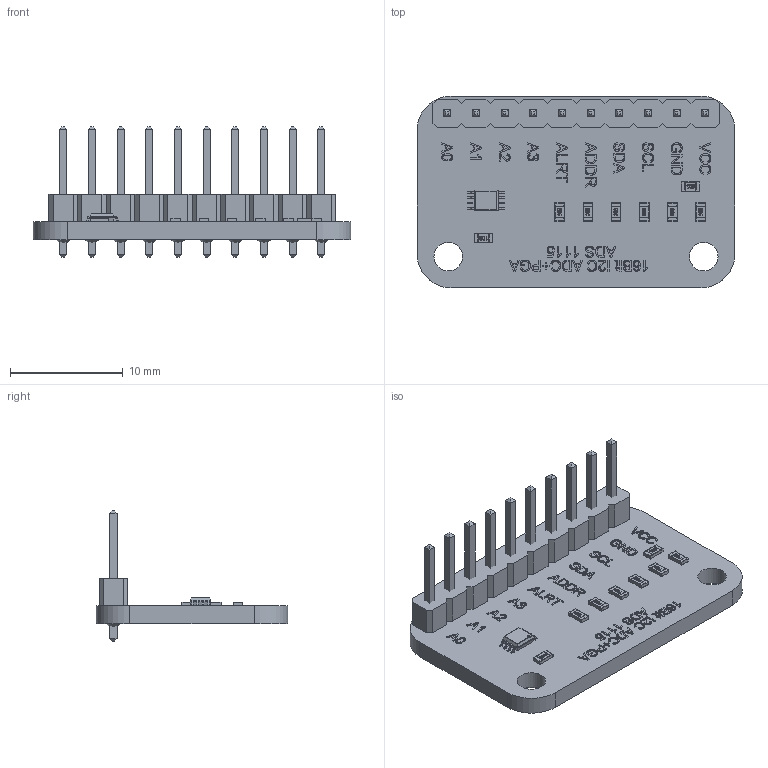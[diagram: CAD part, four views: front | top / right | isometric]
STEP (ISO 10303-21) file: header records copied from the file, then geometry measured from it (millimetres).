
FILE_DESCRIPTION(/* description */ ('Unknown'),/* implementation_level */ '2;1');
FILE_NAME(/* name */ 'ADS1115',/* time_stamp */ '2026-09-02T20:42:07+02:00',/* author */ ('Unknown'),/* organization */ ('Unknown'),/* preprocessor_version */ 'ST-DEVELOPER v20',/* originating_system */ 'Solid Edge',/* authorisation */ 'Unknown');
FILE_SCHEMA (('AUTOMOTIVE_DESIGN {1 0 10303 214 3 1 1}'));
Length unit declared in the file: millimetre
Products named in the file (23): ADS1115; Platine; 2.54mm x 10 Male Header; 2; 2_0; 2_1; 2_2; 2_3; 2_4; 2_5; 2_6; 2_7; 2_8; 2_19; M1608_res_0.3; body006; pin011; label006; ShapeString006; pin012; Lötzinn; LM393 SMD IC SOIC(8)
Assembly tree (38 placements, depth 3):
  ADS1115
    Platine
    2.54mm x 10 Male Header
      2
      2_0
      2_1
      2_2
      2_3
      2_4
      2_5
      2_6
      2_7
      2_8
      2_19
    M1608_res_0.3  x8
      body006
      pin011
      label006
      ShapeString006
      pin012
    Lötzinn  x10
    LM393 SMD IC SOIC(8)
      LM393 SMD IC SOIC(8)
Bounding box: 28.15 x 17 x 11.54 mm (x, y, z)
Volume: 936.6 mm3; surface area: 1810.2 mm2
Topology: 55 solids, 80 shells, 1393 faces, 3642 edges, 2454 vertices
Faces by surface type: plane 1129, cylinder 158, bspline 96, cone 10
Full cylindrical faces by diameter (mm): 0.5 x6, 0.75 x10, 2.54 x2
Entity records: 34951 total; most frequent: CARTESIAN_POINT 10948, ORIENTED_EDGE 4271, DIRECTION 3169, EDGE_CURVE 2162, VERTEX_POINT 1427, LINE 1245, VECTOR 1245, FACE_BOUND 1005
